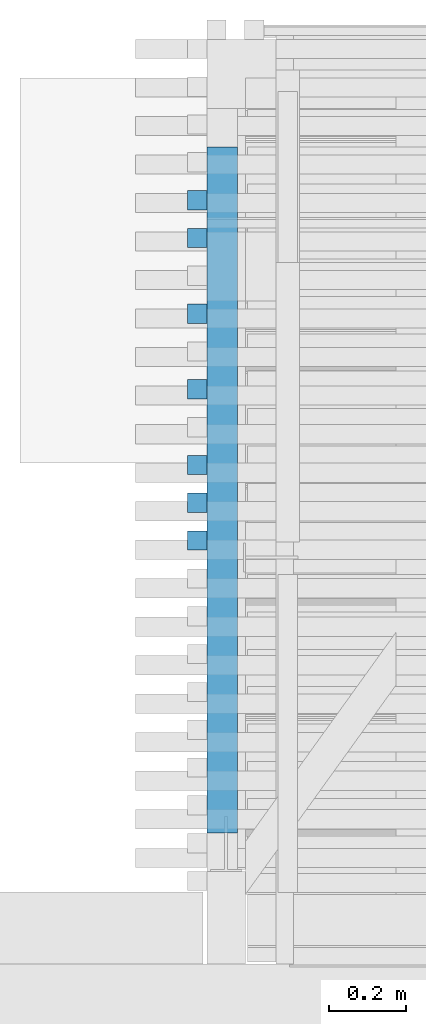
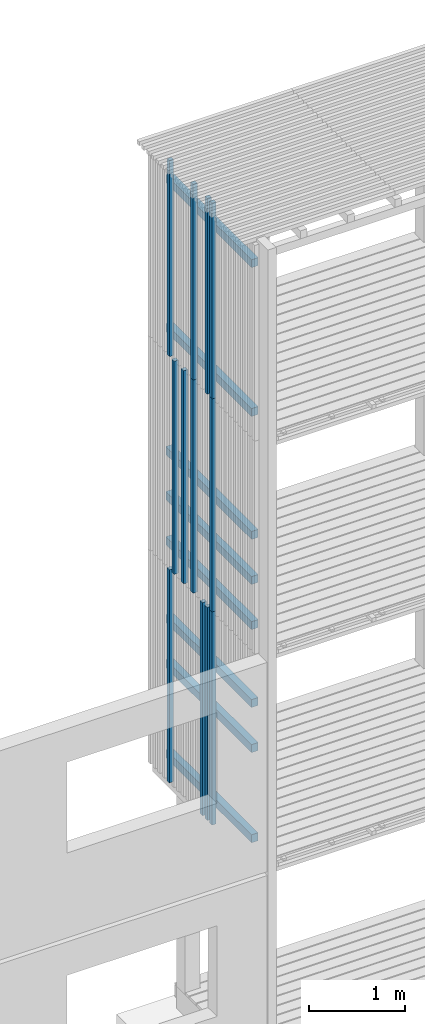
# One storey, part 61 of 182: 20 beams.
"""IFC2X3 building model written with IfcOpenShell, lengths in metres."""

from ifc_helpers import new_model, si_unit, frame, origin, place, context, project, spatial, faceted_brep, element, save


model = new_model("IFC2X3")

# Units and contexts
model_context = context("Model", 3, precision=1e-06, world=origin())
ifc_project = project(units=[si_unit("LENGTHUNIT", "METRE"), si_unit("PLANEANGLEUNIT", "RADIAN")], contexts=[model_context])

# Site, building, storey
site = spatial("IfcSite", under=ifc_project, CompositionType="ELEMENT")
building = spatial("IfcBuilding", under=site, CompositionType="ELEMENT")
storey = spatial("IfcBuildingStorey", under=building, Name="vs", CompositionType="ELEMENT", Elevation=-0.85)

# Beams
placement = place(None, origin())
beam_1_placement = place(placement, frame((23.019999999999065, 12.354168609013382, 5.274999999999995), z_axis=(1.0, 0.0, 0.0), x_axis=(0.0, 0.0, 1.0)))
element("IfcBeam", 1, at=beam_1_placement, inside=storey, Name="Bardage", context=model_context, shape_type="Brep", body=[
    faceted_brep([(2.699999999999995, 0.025000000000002, 0.025000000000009), (2.699999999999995, -0.024999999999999, 0.025000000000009), (2.699999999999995, -0.024999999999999, -0.025000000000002), (2.699999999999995, 0.025000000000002, -0.025000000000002), (1e-15, 0.025000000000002, 0.025000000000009), (2.699999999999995, 0.025000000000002, 0.025000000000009), (2.699999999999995, 0.025000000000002, -0.025000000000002), (1e-15, 0.025000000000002, -0.025000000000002), (1e-15, -0.024999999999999, 0.025000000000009), (1e-15, 0.025000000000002, 0.025000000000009), (1e-15, 0.025000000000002, -0.025000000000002), (1e-15, -0.024999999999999, -0.025000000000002), (1e-15, 0.025000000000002, 0.025000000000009), (1e-15, -0.024999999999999, 0.025000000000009), (2.699999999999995, -0.024999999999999, 0.025000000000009), (2.699999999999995, 0.025000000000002, 0.025000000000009), (1e-15, -0.024999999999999, 0.025000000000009), (1e-15, -0.024999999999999, -0.025000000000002), (2.699999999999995, -0.024999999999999, -0.025000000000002), (2.699999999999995, -0.024999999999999, 0.025000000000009), (1e-15, -0.024999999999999, -0.025000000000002), (1e-15, 0.025000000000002, -0.025000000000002), (2.699999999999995, 0.025000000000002, -0.025000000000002), (2.699999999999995, -0.024999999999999, -0.025000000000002)], [[[0, 1, 2, 3]], [[4, 5, 6, 7]], [[8, 9, 10, 11]], [[12, 13, 14, 15]], [[16, 17, 18, 19]], [[20, 21, 22, 23]]]),
])
beam_2_placement = place(placement, frame((23.019999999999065, 11.666895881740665, 7.974999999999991), z_axis=(1.0, 0.0, 0.0), x_axis=(0.0, 0.0, 1.0)))
element("IfcBeam", 2, at=beam_2_placement, inside=storey, Name="Bardage", context=model_context, shape_type="Brep", body=[
    faceted_brep([(0.0, -0.024999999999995, 0.025000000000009), (0.0, 0.025000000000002, 0.025000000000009), (0.0, 0.025000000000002, -0.025000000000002), (0.0, -0.024999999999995, -0.025000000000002), (2.479999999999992, 0.025000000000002, -0.025000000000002), (2.479999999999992, 0.025000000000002, 0.025000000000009), (2.479999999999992, -0.024999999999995, 0.025000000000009), (2.479999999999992, -0.024999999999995, -0.025000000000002), (0.0, 0.025000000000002, 0.025000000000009), (0.0, -0.024999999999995, 0.025000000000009), (2.479999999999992, -0.024999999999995, 0.025000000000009), (2.479999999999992, 0.025000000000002, 0.025000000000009), (0.0, 0.025000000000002, -0.025000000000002), (0.0, 0.025000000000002, 0.025000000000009), (2.479999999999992, 0.025000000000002, 0.025000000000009), (2.479999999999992, 0.025000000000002, -0.025000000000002), (0.0, -0.024999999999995, -0.025000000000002), (0.0, 0.025000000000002, -0.025000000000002), (2.479999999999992, 0.025000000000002, -0.025000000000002), (2.479999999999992, -0.024999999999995, -0.025000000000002), (2.479999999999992, -0.024999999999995, 0.025000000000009), (0.0, -0.024999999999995, 0.025000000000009), (0.0, -0.024999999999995, -0.025000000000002), (2.479999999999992, -0.024999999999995, -0.025000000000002)], [[[0, 1, 2, 3]], [[4, 5, 6, 7]], [[8, 9, 10, 11]], [[12, 13, 14, 15]], [[16, 17, 18, 19]], [[20, 21, 22, 23]]]),
])
beam_3_placement = place(placement, frame((23.08499999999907, 10.8100776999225, 3.972499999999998), z_axis=(0.0, 0.0, 1.0), x_axis=(0.0, 1.0, 0.0)))
element("IfcBeam", 3, at=beam_3_placement, inside=storey, Name="Support bardage", context=model_context, shape_type="Brep", body=[
    faceted_brep([(1.779999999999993, 0.039999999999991, -0.050000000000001), (1.779999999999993, 0.039999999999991, 0.050000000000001), (1.779999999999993, -0.040000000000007, 0.050000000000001), (1.779999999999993, -0.040000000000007, -0.050000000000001), (1.779999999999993, -0.040000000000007, 0.050000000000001), (1.779999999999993, 0.039999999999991, 0.050000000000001), (-4e-15, 0.039999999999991, 0.050000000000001), (-4e-15, -0.040000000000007, 0.050000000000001), (-4e-15, 0.039999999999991, 0.050000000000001), (1.779999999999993, 0.039999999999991, 0.050000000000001), (1.779999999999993, 0.039999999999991, -0.050000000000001), (-4e-15, 0.039999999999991, -0.050000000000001), (1.779999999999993, -0.040000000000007, -0.050000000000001), (1.779999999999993, -0.040000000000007, 0.050000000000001), (-4e-15, -0.040000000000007, 0.050000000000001), (-4e-15, -0.040000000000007, -0.050000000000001), (-4e-15, 0.039999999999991, -0.050000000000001), (1.779999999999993, 0.039999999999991, -0.050000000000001), (1.779999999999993, -0.040000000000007, -0.050000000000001), (-4e-15, -0.040000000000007, -0.050000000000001), (-4e-15, 0.039999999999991, 0.050000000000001), (-4e-15, 0.039999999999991, -0.050000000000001), (-4e-15, -0.040000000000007, -0.050000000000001), (-4e-15, -0.040000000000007, 0.050000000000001)], [[[0, 1, 2, 3]], [[4, 5, 6, 7]], [[8, 9, 10, 11]], [[12, 13, 14, 15]], [[16, 17, 18, 19]], [[20, 21, 22, 23]]]),
])
beam_4_placement = place(placement, frame((23.08499999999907, 10.8100776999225, 8.229999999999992), z_axis=(0.0, 0.0, 1.0), x_axis=(0.0, 1.0, 0.0)))
element("IfcBeam", 4, at=beam_4_placement, inside=storey, Name="Support bardage", context=model_context, shape_type="Brep", body=[
    faceted_brep([(1.779999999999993, 0.039999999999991, -0.05), (1.779999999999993, 0.039999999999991, 0.050000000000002), (1.779999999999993, -0.040000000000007, 0.050000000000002), (1.779999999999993, -0.040000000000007, -0.05), (1.779999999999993, -0.040000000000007, 0.050000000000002), (1.779999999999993, 0.039999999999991, 0.050000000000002), (-4e-15, 0.039999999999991, 0.050000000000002), (-4e-15, -0.040000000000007, 0.050000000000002), (-4e-15, 0.039999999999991, 0.050000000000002), (1.779999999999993, 0.039999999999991, 0.050000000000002), (1.779999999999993, 0.039999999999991, -0.05), (-4e-15, 0.039999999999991, -0.05), (1.779999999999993, -0.040000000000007, -0.05), (1.779999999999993, -0.040000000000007, 0.050000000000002), (-4e-15, -0.040000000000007, 0.050000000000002), (-4e-15, -0.040000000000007, -0.05), (-4e-15, 0.039999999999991, -0.05), (1.779999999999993, 0.039999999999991, -0.05), (1.779999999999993, -0.040000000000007, -0.05), (-4e-15, -0.040000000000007, -0.05), (-4e-15, 0.039999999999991, 0.050000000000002), (-4e-15, 0.039999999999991, -0.05), (-4e-15, -0.040000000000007, -0.05), (-4e-15, -0.040000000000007, 0.050000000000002)], [[[0, 1, 2, 3]], [[4, 5, 6, 7]], [[8, 9, 10, 11]], [[12, 13, 14, 15]], [[16, 17, 18, 19]], [[20, 21, 22, 23]]]),
])
beam_5_placement = place(placement, frame((23.08499999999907, 10.8100776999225, 2.830000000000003), z_axis=(0.0, 0.0, 1.0), x_axis=(0.0, 1.0, 0.0)))
element("IfcBeam", 5, at=beam_5_placement, inside=storey, Name="Support bardage", context=model_context, shape_type="Brep", body=[
    faceted_brep([(1.779999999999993, 0.039999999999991, -0.050000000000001), (1.779999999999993, 0.039999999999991, 0.05), (1.779999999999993, -0.040000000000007, 0.05), (1.779999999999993, -0.040000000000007, -0.050000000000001), (1.779999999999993, -0.040000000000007, 0.05), (1.779999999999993, 0.039999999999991, 0.05), (-4e-15, 0.039999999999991, 0.05), (-4e-15, -0.040000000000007, 0.05), (-4e-15, 0.039999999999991, 0.05), (1.779999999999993, 0.039999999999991, 0.05), (1.779999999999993, 0.039999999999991, -0.050000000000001), (-4e-15, 0.039999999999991, -0.050000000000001), (1.779999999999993, -0.040000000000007, -0.050000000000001), (1.779999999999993, -0.040000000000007, 0.05), (-4e-15, -0.040000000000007, 0.05), (-4e-15, -0.040000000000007, -0.050000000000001), (-4e-15, 0.039999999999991, -0.050000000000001), (1.779999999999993, 0.039999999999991, -0.050000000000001), (1.779999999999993, -0.040000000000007, -0.050000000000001), (-4e-15, -0.040000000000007, -0.050000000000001), (-4e-15, 0.039999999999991, 0.05), (-4e-15, 0.039999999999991, -0.050000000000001), (-4e-15, -0.040000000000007, -0.050000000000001), (-4e-15, -0.040000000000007, 0.05)], [[[0, 1, 2, 3]], [[4, 5, 6, 7]], [[8, 9, 10, 11]], [[12, 13, 14, 15]], [[16, 17, 18, 19]], [[20, 21, 22, 23]]]),
])
beam_6_placement = place(placement, frame((23.019999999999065, 11.961441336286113, 7.974999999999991), z_axis=(1.0, 0.0, 0.0), x_axis=(0.0, 0.0, 1.0)))
element("IfcBeam", 6, at=beam_6_placement, inside=storey, Name="Bardage", context=model_context, shape_type="Brep", body=[
    faceted_brep([(0.0, -0.024999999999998, 0.025000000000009), (0.0, 0.024999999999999, 0.025000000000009), (0.0, 0.024999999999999, -0.025000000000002), (0.0, -0.024999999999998, -0.025000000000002), (2.479999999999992, 0.024999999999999, -0.025000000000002), (2.479999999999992, 0.024999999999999, 0.025000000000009), (2.479999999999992, -0.024999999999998, 0.025000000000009), (2.479999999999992, -0.024999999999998, -0.025000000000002), (0.0, 0.024999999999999, 0.025000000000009), (0.0, -0.024999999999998, 0.025000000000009), (2.479999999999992, -0.024999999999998, 0.025000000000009), (2.479999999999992, 0.024999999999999, 0.025000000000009), (0.0, 0.024999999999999, -0.025000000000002), (0.0, 0.024999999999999, 0.025000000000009), (2.479999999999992, 0.024999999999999, 0.025000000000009), (2.479999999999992, 0.024999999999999, -0.025000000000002), (0.0, -0.024999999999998, -0.025000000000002), (0.0, 0.024999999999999, -0.025000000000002), (2.479999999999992, 0.024999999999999, -0.025000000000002), (2.479999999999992, -0.024999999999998, -0.025000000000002), (2.479999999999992, -0.024999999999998, 0.025000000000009), (0.0, -0.024999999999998, 0.025000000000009), (0.0, -0.024999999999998, -0.025000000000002), (2.479999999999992, -0.024999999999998, -0.025000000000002)], [[[0, 1, 2, 3]], [[4, 5, 6, 7]], [[8, 9, 10, 11]], [[12, 13, 14, 15]], [[16, 17, 18, 19]], [[20, 21, 22, 23]]]),
])
beam_7_placement = place(placement, frame((23.019999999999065, 11.765077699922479, 2.575000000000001), z_axis=(1.0, 0.0, 0.0), x_axis=(0.0, 0.0, 1.0)))
element("IfcBeam", 7, at=beam_7_placement, inside=storey, Name="Bardage", context=model_context, shape_type="Brep", body=[
    faceted_brep([(2.699961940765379, -0.025000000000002, 0.025000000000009), (2.699961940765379, -0.025000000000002, -0.025000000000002), (2.699961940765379, 0.025000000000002, -0.025000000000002), (2.699961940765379, 0.025000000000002, 0.025000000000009), (0.0, -0.025000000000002, 0.025000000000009), (2.699961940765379, -0.025000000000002, 0.025000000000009), (2.699961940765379, 0.025000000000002, 0.025000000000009), (0.0, 0.025000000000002, 0.025000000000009), (0.0, -0.025000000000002, 0.025000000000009), (0.0, 0.025000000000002, 0.025000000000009), (0.0, 0.025000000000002, -0.025000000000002), (0.0, -0.025000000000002, -0.025000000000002), (0.0, -0.025000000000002, 0.025000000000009), (0.0, -0.025000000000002, -0.025000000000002), (2.699961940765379, -0.025000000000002, -0.025000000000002), (2.699961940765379, -0.025000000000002, 0.025000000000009), (0.0, -0.025000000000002, -0.025000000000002), (0.0, 0.025000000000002, -0.025000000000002), (2.699961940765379, 0.025000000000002, -0.025000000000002), (2.699961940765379, -0.025000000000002, -0.025000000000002), (0.0, 0.025000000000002, -0.025000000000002), (0.0, 0.025000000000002, 0.025000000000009), (2.699961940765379, 0.025000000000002, 0.025000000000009), (2.699961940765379, 0.025000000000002, -0.025000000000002)], [[[0, 1, 2, 3]], [[4, 5, 6, 7]], [[8, 9, 10, 11]], [[12, 13, 14, 15]], [[16, 17, 18, 19]], [[20, 21, 22, 23]]]),
])
beam_8_placement = place(placement, frame((23.019999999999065, 11.666895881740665, 2.575000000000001), z_axis=(1.0, 0.0, 0.0), x_axis=(0.0, 0.0, 1.0)))
element("IfcBeam", 8, at=beam_8_placement, inside=storey, Name="Bardage", context=model_context, shape_type="Brep", body=[
    faceted_brep([(2.699961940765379, -0.024999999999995, 0.025000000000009), (2.699961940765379, -0.024999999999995, -0.025000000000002), (2.699961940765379, 0.025000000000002, -0.025000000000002), (2.699961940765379, 0.025000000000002, 0.025000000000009), (0.0, -0.024999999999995, 0.025000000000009), (2.699961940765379, -0.024999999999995, 0.025000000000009), (2.699961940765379, 0.025000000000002, 0.025000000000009), (0.0, 0.025000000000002, 0.025000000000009), (0.0, -0.024999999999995, 0.025000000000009), (0.0, 0.025000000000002, 0.025000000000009), (0.0, 0.025000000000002, -0.025000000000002), (0.0, -0.024999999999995, -0.025000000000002), (0.0, -0.024999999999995, 0.025000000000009), (0.0, -0.024999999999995, -0.025000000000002), (2.699961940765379, -0.024999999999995, -0.025000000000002), (2.699961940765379, -0.024999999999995, 0.025000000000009), (0.0, -0.024999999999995, -0.025000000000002), (0.0, 0.025000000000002, -0.025000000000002), (2.699961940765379, 0.025000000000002, -0.025000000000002), (2.699961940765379, -0.024999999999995, -0.025000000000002), (0.0, 0.025000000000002, -0.025000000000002), (0.0, 0.025000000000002, 0.025000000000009), (2.699961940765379, 0.025000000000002, 0.025000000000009), (2.699961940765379, 0.025000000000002, -0.025000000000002)], [[[0, 1, 2, 3]], [[4, 5, 6, 7]], [[8, 9, 10, 11]], [[12, 13, 14, 15]], [[16, 17, 18, 19]], [[20, 21, 22, 23]]]),
])
beam_9_placement = place(placement, frame((23.019999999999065, 11.961441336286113, 5.274999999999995), z_axis=(1.0, 0.0, 0.0), x_axis=(0.0, 0.0, 1.0)))
element("IfcBeam", 9, at=beam_9_placement, inside=storey, Name="Bardage", context=model_context, shape_type="Brep", body=[
    faceted_brep([(2.699999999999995, 0.024999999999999, 0.025000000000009), (2.699999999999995, -0.024999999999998, 0.025000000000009), (2.699999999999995, -0.024999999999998, -0.025000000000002), (2.699999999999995, 0.024999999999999, -0.025000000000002), (1e-15, 0.024999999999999, 0.025000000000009), (2.699999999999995, 0.024999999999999, 0.025000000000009), (2.699999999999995, 0.024999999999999, -0.025000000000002), (1e-15, 0.024999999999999, -0.025000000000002), (1e-15, -0.024999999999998, 0.025000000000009), (1e-15, 0.024999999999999, 0.025000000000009), (1e-15, 0.024999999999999, -0.025000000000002), (1e-15, -0.024999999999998, -0.025000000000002), (1e-15, 0.024999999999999, 0.025000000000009), (1e-15, -0.024999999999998, 0.025000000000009), (2.699999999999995, -0.024999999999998, 0.025000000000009), (2.699999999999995, 0.024999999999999, 0.025000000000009), (1e-15, -0.024999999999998, 0.025000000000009), (1e-15, -0.024999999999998, -0.025000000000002), (2.699999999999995, -0.024999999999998, -0.025000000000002), (2.699999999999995, -0.024999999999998, 0.025000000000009), (1e-15, -0.024999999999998, -0.025000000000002), (1e-15, 0.024999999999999, -0.025000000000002), (2.699999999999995, 0.024999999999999, -0.025000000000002), (2.699999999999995, -0.024999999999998, -0.025000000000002)], [[[0, 1, 2, 3]], [[4, 5, 6, 7]], [[8, 9, 10, 11]], [[12, 13, 14, 15]], [[16, 17, 18, 19]], [[20, 21, 22, 23]]]),
])
beam_10_placement = place(placement, frame((23.019999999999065, 12.452350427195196, 7.974999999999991), z_axis=(1.0, 0.0, 0.0), x_axis=(0.0, 0.0, 1.0)))
element("IfcBeam", 10, at=beam_10_placement, inside=storey, Name="Bardage", context=model_context, shape_type="Brep", body=[
    faceted_brep([(0.0, -0.024999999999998, 0.025000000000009), (0.0, 0.024999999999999, 0.025000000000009), (0.0, 0.024999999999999, -0.025000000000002), (0.0, -0.024999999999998, -0.025000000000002), (2.479999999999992, 0.024999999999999, -0.025000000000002), (2.479999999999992, 0.024999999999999, 0.025000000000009), (2.479999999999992, -0.024999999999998, 0.025000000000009), (2.479999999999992, -0.024999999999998, -0.025000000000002), (0.0, 0.024999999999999, 0.025000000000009), (0.0, -0.024999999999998, 0.025000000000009), (2.479999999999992, -0.024999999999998, 0.025000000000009), (2.479999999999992, 0.024999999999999, 0.025000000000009), (0.0, 0.024999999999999, -0.025000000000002), (0.0, 0.024999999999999, 0.025000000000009), (2.479999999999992, 0.024999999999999, 0.025000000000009), (2.479999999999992, 0.024999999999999, -0.025000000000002), (0.0, -0.024999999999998, -0.025000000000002), (0.0, 0.024999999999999, -0.025000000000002), (2.479999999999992, 0.024999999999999, -0.025000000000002), (2.479999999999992, -0.024999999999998, -0.025000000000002), (2.479999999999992, -0.024999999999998, 0.025000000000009), (0.0, -0.024999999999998, 0.025000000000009), (0.0, -0.024999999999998, -0.025000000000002), (2.479999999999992, -0.024999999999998, -0.025000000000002)], [[[0, 1, 2, 3]], [[4, 5, 6, 7]], [[8, 9, 10, 11]], [[12, 13, 14, 15]], [[16, 17, 18, 19]], [[20, 21, 22, 23]]]),
])
beam_11_placement = place(placement, frame((23.019999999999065, 11.568714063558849, 5.274999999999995), z_axis=(1.0, 0.0, 0.0), x_axis=(0.0, 0.0, 1.0)))
element("IfcBeam", 11, at=beam_11_placement, inside=storey, Name="Bardage", context=model_context, shape_type="Brep", body=[
    faceted_brep([(2.699999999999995, 0.025000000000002, 0.025000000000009), (2.699999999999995, -0.024999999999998, 0.025000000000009), (2.699999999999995, -0.024999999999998, -0.025000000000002), (2.699999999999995, 0.025000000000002, -0.025000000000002), (1e-15, 0.025000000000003, 0.025000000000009), (2.699999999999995, 0.025000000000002, 0.025000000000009), (2.699999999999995, 0.025000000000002, -0.025000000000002), (1e-15, 0.025000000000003, -0.025000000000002), (1e-15, -0.024999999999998, 0.025000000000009), (1e-15, 0.025000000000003, 0.025000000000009), (1e-15, 0.025000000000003, -0.025000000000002), (1e-15, -0.024999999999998, -0.025000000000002), (1e-15, 0.025000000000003, 0.025000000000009), (1e-15, -0.024999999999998, 0.025000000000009), (2.699999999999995, -0.024999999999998, 0.025000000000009), (2.699999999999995, 0.025000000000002, 0.025000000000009), (1e-15, -0.024999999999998, 0.025000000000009), (1e-15, -0.024999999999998, -0.025000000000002), (2.699999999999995, -0.024999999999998, -0.025000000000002), (2.699999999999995, -0.024999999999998, 0.025000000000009), (1e-15, -0.024999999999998, -0.025000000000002), (1e-15, 0.025000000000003, -0.025000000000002), (2.699999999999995, 0.025000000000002, -0.025000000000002), (2.699999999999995, -0.024999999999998, -0.025000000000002)], [[[0, 1, 2, 3]], [[4, 5, 6, 7]], [[8, 9, 10, 11]], [[12, 13, 14, 15]], [[16, 17, 18, 19]], [[20, 21, 22, 23]]]),
])
beam_12_placement = place(placement, frame((23.08499999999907, 10.8100776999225, 5.529999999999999), z_axis=(0.0, 0.0, 1.0), x_axis=(0.0, 1.0, 0.0)))
element("IfcBeam", 12, at=beam_12_placement, inside=storey, Name="Support bardage", context=model_context, shape_type="Brep", body=[
    faceted_brep([(1.779999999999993, 0.039999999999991, -0.050000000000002), (1.779999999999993, 0.039999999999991, 0.05), (1.779999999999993, -0.040000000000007, 0.05), (1.779999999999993, -0.040000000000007, -0.050000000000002), (1.779999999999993, -0.040000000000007, 0.05), (1.779999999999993, 0.039999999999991, 0.05), (-4e-15, 0.039999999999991, 0.05), (-4e-15, -0.040000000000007, 0.05), (-4e-15, 0.039999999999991, 0.05), (1.779999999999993, 0.039999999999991, 0.05), (1.779999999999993, 0.039999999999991, -0.050000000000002), (-4e-15, 0.039999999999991, -0.050000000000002), (1.779999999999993, -0.040000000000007, -0.050000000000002), (1.779999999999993, -0.040000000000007, 0.05), (-4e-15, -0.040000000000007, 0.05), (-4e-15, -0.040000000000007, -0.050000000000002), (-4e-15, 0.039999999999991, -0.050000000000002), (1.779999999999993, 0.039999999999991, -0.050000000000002), (1.779999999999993, -0.040000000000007, -0.050000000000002), (-4e-15, -0.040000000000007, -0.050000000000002), (-4e-15, 0.039999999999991, 0.05), (-4e-15, 0.039999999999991, -0.050000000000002), (-4e-15, -0.040000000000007, -0.050000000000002), (-4e-15, -0.040000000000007, 0.05)], [[[0, 1, 2, 3]], [[4, 5, 6, 7]], [[8, 9, 10, 11]], [[12, 13, 14, 15]], [[16, 17, 18, 19]], [[20, 21, 22, 23]]]),
])
beam_13_placement = place(placement, frame((23.019999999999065, 11.568714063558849, 7.974999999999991), z_axis=(1.0, 0.0, 0.0), x_axis=(0.0, 0.0, 1.0)))
element("IfcBeam", 13, at=beam_13_placement, inside=storey, Name="Bardage", context=model_context, shape_type="Brep", body=[
    faceted_brep([(0.0, -0.024999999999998, 0.025000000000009), (0.0, 0.025000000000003, 0.025000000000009), (0.0, 0.025000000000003, -0.025000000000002), (0.0, -0.024999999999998, -0.025000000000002), (2.479999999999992, 0.025000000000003, -0.025000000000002), (2.479999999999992, 0.025000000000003, 0.025000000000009), (2.479999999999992, -0.024999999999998, 0.025000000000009), (2.479999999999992, -0.024999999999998, -0.025000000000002), (0.0, 0.025000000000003, 0.025000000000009), (0.0, -0.024999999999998, 0.025000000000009), (2.479999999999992, -0.024999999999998, 0.025000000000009), (2.479999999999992, 0.025000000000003, 0.025000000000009), (0.0, 0.025000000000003, -0.025000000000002), (0.0, 0.025000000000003, 0.025000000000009), (2.479999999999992, 0.025000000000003, 0.025000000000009), (2.479999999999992, 0.025000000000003, -0.025000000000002), (0.0, -0.024999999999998, -0.025000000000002), (0.0, 0.025000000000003, -0.025000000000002), (2.479999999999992, 0.025000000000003, -0.025000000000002), (2.479999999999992, -0.024999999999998, -0.025000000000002), (2.479999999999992, -0.024999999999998, 0.025000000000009), (0.0, -0.024999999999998, 0.025000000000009), (0.0, -0.024999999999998, -0.025000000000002), (2.479999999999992, -0.024999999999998, -0.025000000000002)], [[[0, 1, 2, 3]], [[4, 5, 6, 7]], [[8, 9, 10, 11]], [[12, 13, 14, 15]], [[16, 17, 18, 19]], [[20, 21, 22, 23]]]),
])
beam_14_placement = place(placement, frame((23.08499999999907, 10.8100776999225, 10.114999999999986), z_axis=(0.0, 0.0, 1.0), x_axis=(0.0, 1.0, 0.0)))
element("IfcBeam", 14, at=beam_14_placement, inside=storey, Name="Support bardage", context=model_context, shape_type="Brep", body=[
    faceted_brep([(1.779999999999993, 0.039999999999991, -0.050000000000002), (1.779999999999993, 0.039999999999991, 0.050000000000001), (1.779999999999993, -0.040000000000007, 0.050000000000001), (1.779999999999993, -0.040000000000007, -0.050000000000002), (1.779999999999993, -0.040000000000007, 0.050000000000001), (1.779999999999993, 0.039999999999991, 0.050000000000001), (-4e-15, 0.039999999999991, 0.050000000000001), (-4e-15, -0.040000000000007, 0.050000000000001), (-4e-15, 0.039999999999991, 0.050000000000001), (1.779999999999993, 0.039999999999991, 0.050000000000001), (1.779999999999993, 0.039999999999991, -0.050000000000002), (-4e-15, 0.039999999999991, -0.050000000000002), (1.779999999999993, -0.040000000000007, -0.050000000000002), (1.779999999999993, -0.040000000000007, 0.050000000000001), (-4e-15, -0.040000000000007, 0.050000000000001), (-4e-15, -0.040000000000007, -0.050000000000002), (-4e-15, 0.039999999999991, -0.050000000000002), (1.779999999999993, 0.039999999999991, -0.050000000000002), (1.779999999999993, -0.040000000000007, -0.050000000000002), (-4e-15, -0.040000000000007, -0.050000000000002), (-4e-15, 0.039999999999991, 0.050000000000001), (-4e-15, 0.039999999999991, -0.050000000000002), (-4e-15, -0.040000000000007, -0.050000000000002), (-4e-15, -0.040000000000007, 0.050000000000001)], [[[0, 1, 2, 3]], [[4, 5, 6, 7]], [[8, 9, 10, 11]], [[12, 13, 14, 15]], [[16, 17, 18, 19]], [[20, 21, 22, 23]]]),
])
beam_15_placement = place(placement, frame((23.08499999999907, 10.8100776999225, 6.672499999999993), z_axis=(0.0, 0.0, 1.0), x_axis=(0.0, 1.0, 0.0)))
element("IfcBeam", 15, at=beam_15_placement, inside=storey, Name="Support bardage", context=model_context, shape_type="Brep", body=[
    faceted_brep([(1.779999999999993, 0.039999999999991, -0.05), (1.779999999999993, 0.039999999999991, 0.050000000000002), (1.779999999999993, -0.040000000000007, 0.050000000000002), (1.779999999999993, -0.040000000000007, -0.05), (1.779999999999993, -0.040000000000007, 0.050000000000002), (1.779999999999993, 0.039999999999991, 0.050000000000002), (-4e-15, 0.039999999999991, 0.050000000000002), (-4e-15, -0.040000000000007, 0.050000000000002), (-4e-15, 0.039999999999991, 0.050000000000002), (1.779999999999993, 0.039999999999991, 0.050000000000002), (1.779999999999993, 0.039999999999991, -0.05), (-4e-15, 0.039999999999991, -0.05), (1.779999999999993, -0.040000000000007, -0.05), (1.779999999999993, -0.040000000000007, 0.050000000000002), (-4e-15, -0.040000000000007, 0.050000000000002), (-4e-15, -0.040000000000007, -0.05), (-4e-15, 0.039999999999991, -0.05), (1.779999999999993, 0.039999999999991, -0.05), (1.779999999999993, -0.040000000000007, -0.05), (-4e-15, -0.040000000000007, -0.05), (-4e-15, 0.039999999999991, 0.050000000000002), (-4e-15, 0.039999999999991, -0.05), (-4e-15, -0.040000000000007, -0.05), (-4e-15, -0.040000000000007, 0.050000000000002)], [[[0, 1, 2, 3]], [[4, 5, 6, 7]], [[8, 9, 10, 11]], [[12, 13, 14, 15]], [[16, 17, 18, 19]], [[20, 21, 22, 23]]]),
])
beam_16_placement = place(placement, frame((23.019999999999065, 12.452350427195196, 2.575000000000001), z_axis=(1.0, 0.0, 0.0), x_axis=(0.0, 0.0, 1.0)))
element("IfcBeam", 16, at=beam_16_placement, inside=storey, Name="Bardage", context=model_context, shape_type="Brep", body=[
    faceted_brep([(2.699961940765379, -0.024999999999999, 0.025000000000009), (2.699961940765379, -0.024999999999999, -0.025000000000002), (2.699961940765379, 0.024999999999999, -0.025000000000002), (2.699961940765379, 0.024999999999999, 0.025000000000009), (0.0, -0.024999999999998, 0.025000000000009), (2.699961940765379, -0.024999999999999, 0.025000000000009), (2.699961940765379, 0.024999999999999, 0.025000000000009), (0.0, 0.024999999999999, 0.025000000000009), (0.0, -0.024999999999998, 0.025000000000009), (0.0, 0.024999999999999, 0.025000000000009), (0.0, 0.024999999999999, -0.025000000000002), (0.0, -0.024999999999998, -0.025000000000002), (0.0, -0.024999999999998, 0.025000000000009), (0.0, -0.024999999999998, -0.025000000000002), (2.699961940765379, -0.024999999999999, -0.025000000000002), (2.699961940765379, -0.024999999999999, 0.025000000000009), (0.0, -0.024999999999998, -0.025000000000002), (0.0, 0.024999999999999, -0.025000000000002), (2.699961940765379, 0.024999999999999, -0.025000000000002), (2.699961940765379, -0.024999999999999, -0.025000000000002), (0.0, 0.024999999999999, -0.025000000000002), (0.0, 0.024999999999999, 0.025000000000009), (2.699961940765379, 0.024999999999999, 0.025000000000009), (2.699961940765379, 0.024999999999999, -0.025000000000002)], [[[0, 1, 2, 3]], [[4, 5, 6, 7]], [[8, 9, 10, 11]], [[12, 13, 14, 15]], [[16, 17, 18, 19]], [[20, 21, 22, 23]]]),
])
beam_17_placement = place(placement, frame((23.019999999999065, 11.568714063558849, 2.575000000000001), z_axis=(1.0, 0.0, 0.0), x_axis=(0.0, 0.0, 1.0)))
element("IfcBeam", 17, at=beam_17_placement, inside=storey, Name="Bardage", context=model_context, shape_type="Brep", body=[
    faceted_brep([(2.699961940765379, -0.024999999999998, 0.025000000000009), (2.699961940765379, -0.024999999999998, -0.025000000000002), (2.699961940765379, 0.025000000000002, -0.025000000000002), (2.699961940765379, 0.025000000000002, 0.025000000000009), (0.0, -0.024999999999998, 0.025000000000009), (2.699961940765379, -0.024999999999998, 0.025000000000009), (2.699961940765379, 0.025000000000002, 0.025000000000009), (0.0, 0.025000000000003, 0.025000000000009), (0.0, -0.024999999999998, 0.025000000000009), (0.0, 0.025000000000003, 0.025000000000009), (0.0, 0.025000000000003, -0.025000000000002), (0.0, -0.024999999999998, -0.025000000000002), (0.0, -0.024999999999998, 0.025000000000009), (0.0, -0.024999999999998, -0.025000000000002), (2.699961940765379, -0.024999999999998, -0.025000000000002), (2.699961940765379, -0.024999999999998, 0.025000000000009), (0.0, -0.024999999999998, -0.025000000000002), (0.0, 0.025000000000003, -0.025000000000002), (2.699961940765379, 0.025000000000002, -0.025000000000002), (2.699961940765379, -0.024999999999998, -0.025000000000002), (0.0, 0.025000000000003, -0.025000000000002), (0.0, 0.025000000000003, 0.025000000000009), (2.699961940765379, 0.025000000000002, 0.025000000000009), (2.699961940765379, 0.025000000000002, -0.025000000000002)], [[[0, 1, 2, 3]], [[4, 5, 6, 7]], [[8, 9, 10, 11]], [[12, 13, 14, 15]], [[16, 17, 18, 19]], [[20, 21, 22, 23]]]),
])
beam_18_placement = place(placement, frame((23.019999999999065, 12.157804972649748, 5.274999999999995), z_axis=(1.0, 0.0, 0.0), x_axis=(0.0, 0.0, 1.0)))
element("IfcBeam", 18, at=beam_18_placement, inside=storey, Name="Bardage", context=model_context, shape_type="Brep", body=[
    faceted_brep([(2.699999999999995, 0.024999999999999, 0.025000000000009), (2.699999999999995, -0.024999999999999, 0.025000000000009), (2.699999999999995, -0.024999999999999, -0.025000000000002), (2.699999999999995, 0.024999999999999, -0.025000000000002), (1e-15, 0.024999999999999, 0.025000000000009), (2.699999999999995, 0.024999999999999, 0.025000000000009), (2.699999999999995, 0.024999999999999, -0.025000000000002), (1e-15, 0.024999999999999, -0.025000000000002), (1e-15, -0.024999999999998, 0.025000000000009), (1e-15, 0.024999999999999, 0.025000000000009), (1e-15, 0.024999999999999, -0.025000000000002), (1e-15, -0.024999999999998, -0.025000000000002), (1e-15, 0.024999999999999, 0.025000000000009), (1e-15, -0.024999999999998, 0.025000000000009), (2.699999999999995, -0.024999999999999, 0.025000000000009), (2.699999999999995, 0.024999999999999, 0.025000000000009), (1e-15, -0.024999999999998, 0.025000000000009), (1e-15, -0.024999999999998, -0.025000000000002), (2.699999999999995, -0.024999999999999, -0.025000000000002), (2.699999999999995, -0.024999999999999, 0.025000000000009), (1e-15, -0.024999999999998, -0.025000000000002), (1e-15, 0.024999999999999, -0.025000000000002), (2.699999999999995, 0.024999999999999, -0.025000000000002), (2.699999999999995, -0.024999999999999, -0.025000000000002)], [[[0, 1, 2, 3]], [[4, 5, 6, 7]], [[8, 9, 10, 11]], [[12, 13, 14, 15]], [[16, 17, 18, 19]], [[20, 21, 22, 23]]]),
])
beam_19_placement = place(placement, frame((23.08499999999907, 10.8100776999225, 4.543749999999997), z_axis=(0.0, 0.0, 1.0), x_axis=(0.0, 1.0, 0.0)))
element("IfcBeam", 19, at=beam_19_placement, inside=storey, Name="Support bardage", context=model_context, shape_type="Brep", body=[
    faceted_brep([(1.779999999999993, 0.039999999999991, -0.050000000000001), (1.779999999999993, 0.039999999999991, 0.050000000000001), (1.779999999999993, -0.040000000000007, 0.050000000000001), (1.779999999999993, -0.040000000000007, -0.050000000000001), (1.779999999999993, -0.040000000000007, 0.050000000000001), (1.779999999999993, 0.039999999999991, 0.050000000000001), (-4e-15, 0.039999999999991, 0.050000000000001), (-4e-15, -0.040000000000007, 0.050000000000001), (-4e-15, 0.039999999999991, 0.050000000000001), (1.779999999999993, 0.039999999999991, 0.050000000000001), (1.779999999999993, 0.039999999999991, -0.050000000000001), (-4e-15, 0.039999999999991, -0.050000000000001), (1.779999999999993, -0.040000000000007, -0.050000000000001), (1.779999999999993, -0.040000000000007, 0.050000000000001), (-4e-15, -0.040000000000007, 0.050000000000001), (-4e-15, -0.040000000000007, -0.050000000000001), (-4e-15, 0.039999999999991, -0.050000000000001), (1.779999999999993, 0.039999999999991, -0.050000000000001), (1.779999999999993, -0.040000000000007, -0.050000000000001), (-4e-15, -0.040000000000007, -0.050000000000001), (-4e-15, 0.039999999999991, 0.050000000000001), (-4e-15, 0.039999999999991, -0.050000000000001), (-4e-15, -0.040000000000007, -0.050000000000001), (-4e-15, -0.040000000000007, 0.050000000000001)], [[[0, 1, 2, 3]], [[4, 5, 6, 7]], [[8, 9, 10, 11]], [[12, 13, 14, 15]], [[16, 17, 18, 19]], [[20, 21, 22, 23]]]),
])
beam_20_placement = place(placement, frame((23.08499999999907, 10.8100776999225, 6.101249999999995), z_axis=(0.0, 0.0, 1.0), x_axis=(0.0, 1.0, 0.0)))
element("IfcBeam", 20, at=beam_20_placement, inside=storey, Name="Support bardage", context=model_context, shape_type="Brep", body=[
    faceted_brep([(1.779999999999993, 0.039999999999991, -0.05), (1.779999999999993, 0.039999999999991, 0.050000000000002), (1.779999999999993, -0.040000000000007, 0.050000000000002), (1.779999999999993, -0.040000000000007, -0.05), (1.779999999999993, -0.040000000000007, 0.050000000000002), (1.779999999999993, 0.039999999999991, 0.050000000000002), (-4e-15, 0.039999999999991, 0.050000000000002), (-4e-15, -0.040000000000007, 0.050000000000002), (-4e-15, 0.039999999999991, 0.050000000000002), (1.779999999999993, 0.039999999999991, 0.050000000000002), (1.779999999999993, 0.039999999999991, -0.05), (-4e-15, 0.039999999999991, -0.05), (1.779999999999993, -0.040000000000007, -0.05), (1.779999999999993, -0.040000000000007, 0.050000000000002), (-4e-15, -0.040000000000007, 0.050000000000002), (-4e-15, -0.040000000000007, -0.05), (-4e-15, 0.039999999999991, -0.05), (1.779999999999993, 0.039999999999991, -0.05), (1.779999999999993, -0.040000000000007, -0.05), (-4e-15, -0.040000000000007, -0.05), (-4e-15, 0.039999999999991, 0.050000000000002), (-4e-15, 0.039999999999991, -0.05), (-4e-15, -0.040000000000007, -0.05), (-4e-15, -0.040000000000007, 0.050000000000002)], [[[0, 1, 2, 3]], [[4, 5, 6, 7]], [[8, 9, 10, 11]], [[12, 13, 14, 15]], [[16, 17, 18, 19]], [[20, 21, 22, 23]]]),
])

save(model, "model.ifc")
